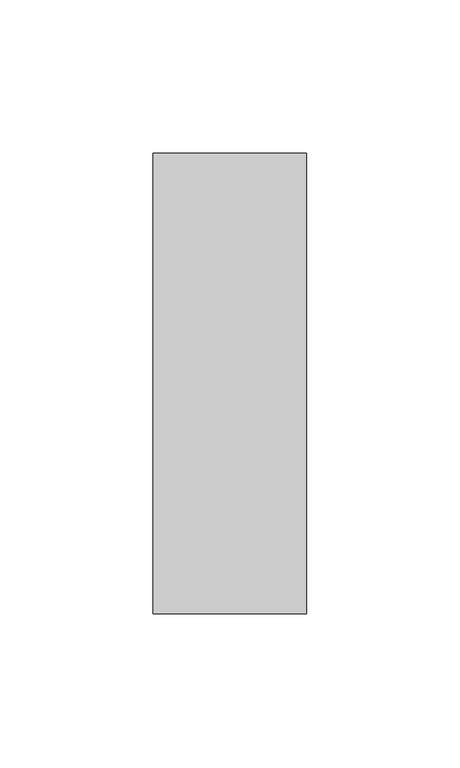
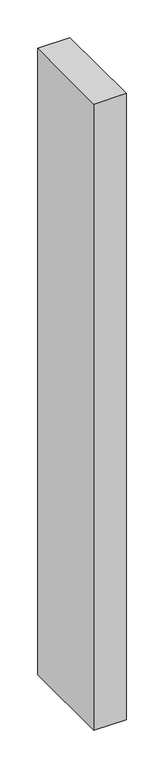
"""IFC4 building model written with IfcOpenShell, lengths in millimetres: member geometry, Прямоугольный импост : 50 x 150 мм."""

from ifc_helpers import new_model, si_unit, frame, origin, place, context, project, spatial, polyline, outline, extrude, source, transform, mapped, element, save


def member_ae7ea033(model_context):
    return source(origin(), model_context, "Body", "SweptSolid", [
        extrude(outline(polyline([(25.0, 75.0), (25.0, -75.0), (-25.0, -75.0), (-25.0, 75.0), (25.0, 75.0)])), frame((0.0, 0.0, -1019.5011564), z_axis=(0.0, 0.0, 1.0), x_axis=(1.0, 0.0, 0.0)), (0.0, 0.0, 1.0), 1019.5011564),
    ])


if __name__ == "__main__":
    model = new_model("IFC4")
    model_context = context("Model", 3, world=origin())
    ifc_project = project(units=[si_unit("LENGTHUNIT", "METRE", prefix="MILLI")], contexts=[model_context])
    site = spatial("IfcSite", under=ifc_project)
    building = spatial("IfcBuilding", under=site)
    placement = place(None, origin())
    member_shape = member_ae7ea033(model_context)
    element("IfcMember", 1, ObjectType="Прямоугольный импост : 50 x 150 мм", at=placement, inside=building, context=model_context, shape_type="MappedRepresentation", body=[
        mapped(member_shape, transform((0.0, 0.0, 0.0), x_axis=(1.0, 0.0, 0.0), y_axis=(0.0, 1.0, 0.0), z_axis=(0.0, 0.0, 1.0))),
    ])
    save(model, "model.ifc")
